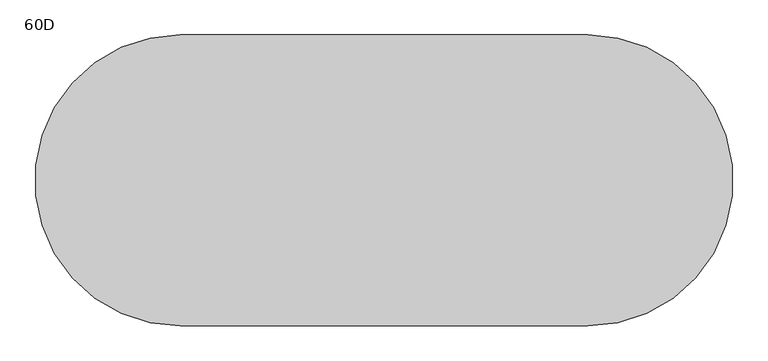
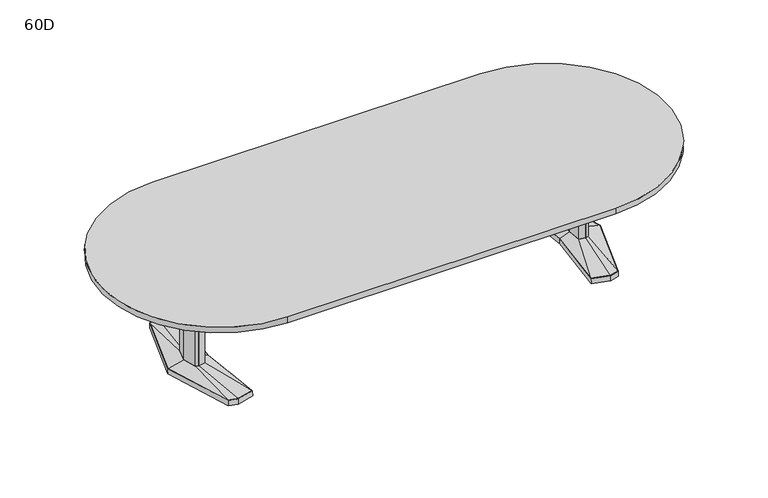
"""IFC4 building model written with IfcOpenShell, lengths in millimetres: furniture geometry, Coalesse_AM_Table_Conference_ETable2_Racetrack_12ft_AluminiumBase : 60D."""

from ifc_helpers import new_model, si_unit, point, frame, frame_2d, origin, place, context, project, spatial, polyline, circle_curve, trimmed, segment, composite_curve, outline, extrude, faceted_brep, source, transform, mapped, element, save
from ifc_brep_helpers import plane_surface, spline_surface, advanced_brep


def furniture_60d_2a99bef6(model_context):
    return source(origin(), model_context, "Body", "SolidModel", [
        faceted_brep([(1210.6306835, 455.5848221, 38.1), (1101.0531277, 426.2263816, 38.1), (1142.2163717, 0.0, 38.1), (1101.0531277, -426.2263816, 38.1), (1210.6306835, -455.5848221, 38.1), (1266.7570396, -440.5478297, 38.1), (1404.0684269, 0.0, 38.1), (1266.7570396, 440.5478297, 38.1), (1210.6306754, 457.2283104, 3.175), (1268.0124472, 441.8549756, 3.175), (1405.73125, 0.0, 3.175), (1268.0124472, -441.8549756, 3.175), (1210.6306754, -457.2283104, 3.175), (1099.34375, -427.4118891, 3.175), (1140.6214856, 0.0, 3.175), (1099.34375, 427.4118891, 3.175), (1214.220115, 428.3273875, 3.175), (1109.1718228, 402.1057253, 3.175), (1117.290518, 377.985069, 3.175), (1217.8095466, 401.0699529, 3.175), (1268.3691725, 387.524361, 3.175), (1267.5631061, 414.0360954, 3.175), (1214.220115, -428.3273875, 3.175), (1267.5631061, -414.0360954, 3.175), (1268.3691725, -387.524361, 3.175), (1217.8095466, -401.0699529, 3.175), (1117.290518, -377.985069, 3.175), (1109.1718228, -402.1057253, 3.175), (1340.8153621, 0.0, 3.175), (1308.5459611, 120.4193755, 3.175), (1259.8987222, 133.471665, 3.175), (1180.0180526, 119.4176561, 3.175), (1168.8868466, 0.0, 3.175), (1180.0180526, -119.4176561, 3.175), (1259.8987222, -133.471665, 3.175), (1308.5459611, -120.4193755, 3.175), (1214.220115, 428.3273875, 0.0), (1267.5631061, 414.0360954, 0.0), (1268.3691725, 387.524361, 0.0), (1217.8095466, 401.0699529, 0.0), (1117.290518, 377.985069, 0.0), (1109.1718228, 402.1057253, 0.0), (1214.220115, -428.3273875, 0.0), (1109.1718228, -402.1057253, 0.0), (1117.290518, -377.985069, 0.0), (1217.8095466, -401.0699529, 0.0), (1268.3691725, -387.524361, 0.0), (1267.5631061, -414.0360954, 0.0), (1340.8153621, 0.0, 0.0), (1308.5459611, -120.4193755, 0.0), (1259.8987222, -133.471665, 0.0), (1180.0180526, -119.4176561, 0.0), (1168.8868466, 0.0, 0.0), (1180.0180526, 119.4176561, 0.0), (1259.8987222, 133.471665, 0.0), (1308.5459611, 120.4193755, 0.0)], [[[0, 1, 2, 3, 4, 5, 6, 7]], [[8, 9, 10, 11, 12, 13, 14, 15], [16, 17, 18, 19, 20, 21], [22, 23, 24, 25, 26, 27], [28, 29, 30, 31, 32, 33, 34, 35]], [[7, 9, 8, 0]], [[6, 10, 9, 7]], [[5, 11, 10, 6]], [[4, 12, 11, 5]], [[3, 13, 12, 4]], [[2, 14, 13, 3]], [[1, 15, 14, 2]], [[0, 8, 15, 1]], [[36, 37, 38, 39, 40, 41]], [[42, 43, 44, 45, 46, 47]], [[48, 49, 50, 51, 52, 53, 54, 55]], [[36, 16, 21, 37]], [[37, 21, 20, 38]], [[38, 20, 19, 39]], [[39, 19, 18, 40]], [[40, 18, 17, 41]], [[41, 17, 16, 36]], [[42, 22, 27, 43]], [[43, 27, 26, 44]], [[44, 26, 25, 45]], [[45, 25, 24, 46]], [[46, 24, 23, 47]], [[47, 23, 22, 42]], [[48, 28, 35, 49]], [[49, 35, 34, 50]], [[50, 34, 33, 51]], [[51, 33, 32, 52]], [[52, 32, 31, 53]], [[53, 31, 30, 54]], [[54, 30, 29, 55]], [[55, 29, 28, 48]]]),
        faceted_brep([(1301.3710836, 0.0, 698.5), (1277.4358546, 89.3188359, 698.5), (1260.5824984, 93.8406728, 698.5), (1258.1826511, 94.4845635, 698.5), (1215.255146, 86.9320037, 698.5), (1207.1520056, 0.0, 698.5), (1215.255146, -86.9320037, 698.5), (1258.1826511, -94.4845635, 698.5), (1260.5824984, -93.8406728, 698.5), (1277.4358546, -89.3188359, 698.5), (1301.3710836, 0.0, 63.5), (1277.4358546, -89.3188359, 63.5), (1260.5824984, -93.8406728, 63.5), (1258.1826511, -94.4845635, 63.5), (1215.255146, -86.9320037, 63.5), (1207.1520056, 0.0, 63.5), (1215.255146, 86.9320037, 63.5), (1258.1826511, 94.4845635, 63.5), (1260.5824984, 93.8406728, 63.5), (1277.4358546, 89.3188359, 63.5)], [[[0, 1, 2, 3, 4, 5, 6, 7, 8, 9]], [[10, 11, 12, 13, 14, 15, 16, 17, 18, 19]], [[9, 11, 10, 0]], [[8, 12, 11, 9]], [[7, 13, 12, 8]], [[6, 14, 13, 7]], [[5, 15, 14, 6]], [[4, 16, 15, 5]], [[3, 17, 16, 4]], [[2, 18, 17, 3]], [[1, 19, 18, 2]], [[0, 10, 19, 1]]]),
        advanced_brep(
        [(1258.1826511, 94.4845635, 63.5), (1215.255146, 86.9320037, 63.5), (1207.1520056, 0.0, 63.5), (1215.255146, -86.9320037, 63.5), (1258.1826511, -94.4845635, 63.5), (1277.4358546, -89.3188359, 63.5), (1301.3710836, 0.0, 63.5), (1277.4358546, 89.3188359, 63.5), (1210.6306835, 455.5848221, 38.1), (1266.7570396, 440.5478297, 38.1), (1404.0684269, 0.0, 38.1), (1266.7570396, -440.5478297, 38.1), (1210.6306835, -455.5848221, 38.1), (1101.0531277, -426.2263816, 38.1), (1142.2163717, 0.0, 38.1), (1101.0531277, 426.2263816, 38.1)],
        [
            (0, 1),
            (1, 2),
            (2, 3),
            (3, 4),
            (4, 5),
            (5, 6),
            (6, 7),
            (7, 0),
            (8, 9),
            (9, 10),
            (10, 11),
            (11, 12),
            (12, 13),
            (13, 14),
            (14, 15),
            (15, 8),
            (8, 0),
            (7, 9),
            (6, 10),
            (5, 11),
            (4, 12),
            (3, 13),
            (2, 14),
            (1, 15),
        ],
        [
            plane_surface(frame((1251.2837991, 0.0, 63.5), z_axis=(0.0, 0.0, 1.0), x_axis=(-0.25884244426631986, -0.9659195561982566, 0.0))),
            plane_surface(frame((1212.8958125, 0.0, 38.1), z_axis=(0.0, 0.0, -1.0), x_axis=(-0.25884244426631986, -0.9659195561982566, 0.0))),
            spline_surface(1, 1, [[(1210.6306835, 455.5848221, 38.1), (1266.7570396, 440.5478297, 38.1)], [(1258.1826511, 94.4845635, 63.5), (1277.4358546, 89.3188359, 63.5)]], [2, 2], [2, 2], [0.0, 1.0], [0.0, 1.0]),
            spline_surface(1, 1, [[(1266.7570396, 440.5478297, 38.1), (1404.0684269, 0.0, 38.1)], [(1277.4358546, 89.3188359, 63.5), (1301.3710836, 0.0, 63.5)]], [2, 2], [2, 2], [0.0, 1.0], [0.0, 1.0]),
            spline_surface(1, 1, [[(1404.0684269, 0.0, 38.1), (1266.7570396, -440.5478297, 38.1)], [(1301.3710836, 0.0, 63.5), (1277.4358546, -89.3188359, 63.5)]], [2, 2], [2, 2], [0.0, 1.0], [0.0, 1.0]),
            spline_surface(1, 1, [[(1266.7570396, -440.5478297, 38.1), (1210.6306835, -455.5848221, 38.1)], [(1277.4358546, -89.3188359, 63.5), (1258.1826511, -94.4845635, 63.5)]], [2, 2], [2, 2], [0.0, 1.0], [0.0, 1.0]),
            spline_surface(1, 1, [[(1210.6306835, -455.5848221, 38.1), (1101.0531277, -426.2263816, 38.1)], [(1258.1826511, -94.4845635, 63.5), (1215.255146, -86.9320037, 63.5)]], [2, 2], [2, 2], [0.0, 1.0], [0.0, 1.0]),
            spline_surface(1, 1, [[(1101.0531277, -426.2263816, 38.1), (1142.2163717, 0.0, 38.1)], [(1215.255146, -86.9320037, 63.5), (1207.1520056, 0.0, 63.5)]], [2, 2], [2, 2], [0.0, 1.0], [0.0, 1.0]),
            spline_surface(1, 1, [[(1142.2163717, 0.0, 38.1), (1101.0531277, 426.2263816, 38.1)], [(1207.1520056, 0.0, 63.5), (1215.255146, 86.9320037, 63.5)]], [2, 2], [2, 2], [0.0, 1.0], [0.0, 1.0]),
            spline_surface(1, 1, [[(1101.0531277, 426.2263816, 38.1), (1210.6306835, 455.5848221, 38.1)], [(1215.255146, 86.9320037, 63.5), (1258.1826511, 94.4845635, 63.5)]], [2, 2], [2, 2], [0.0, 1.0], [0.0, 1.0]),
        ],
        [
            (0, [[1, 2, 3, 4, 5, 6, 7, 8]]),
            (1, [[9, 10, 11, 12, 13, 14, 15, 16]]),
            (2, [[17, -8, 18, -9]]),
            (3, [[-18, -7, 19, -10]]),
            (4, [[-19, -6, 20, -11]]),
            (5, [[-20, -5, 21, -12]]),
            (6, [[-21, -4, 22, -13]]),
            (7, [[-22, -3, 23, -14]]),
            (8, [[-23, -2, 24, -15]]),
            (9, [[-24, -1, -17, -16]]),
        ],
    ),
        faceted_brep([(-1210.6306835, 455.5848221, 38.1), (-1266.7570396, 440.5478297, 38.1), (-1404.0684269, 0.0, 38.1), (-1266.7570396, -440.5478297, 38.1), (-1210.6306835, -455.5848221, 38.1), (-1101.0531277, -426.2263816, 38.1), (-1142.2163717, 0.0, 38.1), (-1101.0531277, 426.2263816, 38.1), (-1210.6306754, 457.2283104, 3.175), (-1099.34375, 427.4118891, 3.175), (-1140.6214856, 0.0, 3.175), (-1099.34375, -427.4118891, 3.175), (-1210.6306754, -457.2283104, 3.175), (-1268.0124472, -441.8549756, 3.175), (-1405.73125, 0.0, 3.175), (-1268.0124472, 441.8549756, 3.175), (-1214.220115, 428.3273875, 3.175), (-1267.5631061, 414.0360954, 3.175), (-1268.3691725, 387.524361, 3.175), (-1217.8095466, 401.0699529, 3.175), (-1117.290518, 377.985069, 3.175), (-1109.1718228, 402.1057253, 3.175), (-1214.220115, -428.3273875, 3.175), (-1109.1718228, -402.1057253, 3.175), (-1117.290518, -377.985069, 3.175), (-1217.8095466, -401.0699529, 3.175), (-1268.3691725, -387.524361, 3.175), (-1267.5631061, -414.0360954, 3.175), (-1340.8153621, 0.0, 3.175), (-1308.5459611, -120.4193755, 3.175), (-1259.8987222, -133.471665, 3.175), (-1180.0180526, -119.4176561, 3.175), (-1168.8868466, 0.0, 3.175), (-1180.0180526, 119.4176561, 3.175), (-1259.8987222, 133.471665, 3.175), (-1308.5459611, 120.4193755, 3.175), (-1214.220115, 428.3273875, 0.0), (-1109.1718228, 402.1057253, 0.0), (-1117.290518, 377.985069, 0.0), (-1217.8095466, 401.0699529, 0.0), (-1268.3691725, 387.524361, 0.0), (-1267.5631061, 414.0360954, 0.0), (-1214.220115, -428.3273875, 0.0), (-1267.5631061, -414.0360954, 0.0), (-1268.3691725, -387.524361, 0.0), (-1217.8095466, -401.0699529, 0.0), (-1117.290518, -377.985069, 0.0), (-1109.1718228, -402.1057253, 0.0), (-1340.8153621, 0.0, 0.0), (-1308.5459611, 120.4193755, 0.0), (-1259.8987222, 133.471665, 0.0), (-1180.0180526, 119.4176561, 0.0), (-1168.8868466, 0.0, 0.0), (-1180.0180526, -119.4176561, 0.0), (-1259.8987222, -133.471665, 0.0), (-1308.5459611, -120.4193755, 0.0)], [[[0, 1, 2, 3, 4, 5, 6, 7]], [[8, 9, 10, 11, 12, 13, 14, 15], [16, 17, 18, 19, 20, 21], [22, 23, 24, 25, 26, 27], [28, 29, 30, 31, 32, 33, 34, 35]], [[1, 0, 8, 15]], [[2, 1, 15, 14]], [[3, 2, 14, 13]], [[4, 3, 13, 12]], [[5, 4, 12, 11]], [[6, 5, 11, 10]], [[7, 6, 10, 9]], [[0, 7, 9, 8]], [[36, 37, 38, 39, 40, 41]], [[42, 43, 44, 45, 46, 47]], [[48, 49, 50, 51, 52, 53, 54, 55]], [[36, 41, 17, 16]], [[41, 40, 18, 17]], [[40, 39, 19, 18]], [[39, 38, 20, 19]], [[38, 37, 21, 20]], [[37, 36, 16, 21]], [[42, 47, 23, 22]], [[47, 46, 24, 23]], [[46, 45, 25, 24]], [[45, 44, 26, 25]], [[44, 43, 27, 26]], [[43, 42, 22, 27]], [[48, 55, 29, 28]], [[55, 54, 30, 29]], [[54, 53, 31, 30]], [[53, 52, 32, 31]], [[52, 51, 33, 32]], [[51, 50, 34, 33]], [[50, 49, 35, 34]], [[49, 48, 28, 35]]]),
        faceted_brep([(-1301.3710836, 0.0, 698.5), (-1277.4358546, -89.3188359, 698.5), (-1260.5824984, -93.8406728, 698.5), (-1258.1826511, -94.4845635, 698.5), (-1215.255146, -86.9320037, 698.5), (-1207.1520056, 0.0, 698.5), (-1215.255146, 86.9320037, 698.5), (-1258.1826511, 94.4845635, 698.5), (-1260.5824984, 93.8406728, 698.5), (-1277.4358546, 89.3188359, 698.5), (-1301.3710836, 0.0, 63.5), (-1277.4358546, 89.3188359, 63.5), (-1260.5824984, 93.8406728, 63.5), (-1258.1826511, 94.4845635, 63.5), (-1215.255146, 86.9320037, 63.5), (-1207.1520056, 0.0, 63.5), (-1215.255146, -86.9320037, 63.5), (-1258.1826511, -94.4845635, 63.5), (-1260.5824984, -93.8406728, 63.5), (-1277.4358546, -89.3188359, 63.5)], [[[0, 1, 2, 3, 4, 5, 6, 7, 8, 9]], [[10, 11, 12, 13, 14, 15, 16, 17, 18, 19]], [[1, 0, 10, 19]], [[2, 1, 19, 18]], [[3, 2, 18, 17]], [[4, 3, 17, 16]], [[5, 4, 16, 15]], [[6, 5, 15, 14]], [[7, 6, 14, 13]], [[8, 7, 13, 12]], [[9, 8, 12, 11]], [[0, 9, 11, 10]]]),
        advanced_brep(
        [(-1258.1826511, 94.4845635, 63.5), (-1277.4358546, 89.3188359, 63.5), (-1301.3710836, 0.0, 63.5), (-1277.4358546, -89.3188359, 63.5), (-1258.1826511, -94.4845635, 63.5), (-1215.255146, -86.9320037, 63.5), (-1207.1520056, 0.0, 63.5), (-1215.255146, 86.9320037, 63.5), (-1210.6306835, 455.5848221, 38.1), (-1101.0531277, 426.2263816, 38.1), (-1142.2163717, 0.0, 38.1), (-1101.0531277, -426.2263816, 38.1), (-1210.6306835, -455.5848221, 38.1), (-1266.7570396, -440.5478297, 38.1), (-1404.0684269, 0.0, 38.1), (-1266.7570396, 440.5478297, 38.1)],
        [
            (0, 1),
            (1, 2),
            (2, 3),
            (3, 4),
            (4, 5),
            (5, 6),
            (6, 7),
            (7, 0),
            (8, 9),
            (9, 10),
            (10, 11),
            (11, 12),
            (12, 13),
            (13, 14),
            (14, 15),
            (15, 8),
            (15, 1),
            (0, 8),
            (14, 2),
            (13, 3),
            (12, 4),
            (11, 5),
            (10, 6),
            (9, 7),
        ],
        [
            plane_surface(frame((-1251.2837991, 0.0, 63.5), z_axis=(0.0, 0.0, 1.0), x_axis=(0.25884244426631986, -0.9659195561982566, 0.0))),
            plane_surface(frame((-1212.8958125, 0.0, 38.1), z_axis=(0.0, 0.0, -1.0), x_axis=(0.25884244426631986, -0.9659195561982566, 0.0))),
            spline_surface(1, 1, [[(-1210.6306835, 455.5848221, 38.1), (-1258.1826511, 94.4845635, 63.5)], [(-1266.7570396, 440.5478297, 38.1), (-1277.4358546, 89.3188359, 63.5)]], [2, 2], [2, 2], [0.0, 1.0], [0.0, 1.0]),
            spline_surface(1, 1, [[(-1266.7570396, 440.5478297, 38.1), (-1277.4358546, 89.3188359, 63.5)], [(-1404.0684269, 0.0, 38.1), (-1301.3710836, 0.0, 63.5)]], [2, 2], [2, 2], [0.0, 1.0], [0.0, 1.0]),
            spline_surface(1, 1, [[(-1404.0684269, 0.0, 38.1), (-1301.3710836, 0.0, 63.5)], [(-1266.7570396, -440.5478297, 38.1), (-1277.4358546, -89.3188359, 63.5)]], [2, 2], [2, 2], [0.0, 1.0], [0.0, 1.0]),
            spline_surface(1, 1, [[(-1266.7570396, -440.5478297, 38.1), (-1277.4358546, -89.3188359, 63.5)], [(-1210.6306835, -455.5848221, 38.1), (-1258.1826511, -94.4845635, 63.5)]], [2, 2], [2, 2], [0.0, 1.0], [0.0, 1.0]),
            spline_surface(1, 1, [[(-1210.6306835, -455.5848221, 38.1), (-1258.1826511, -94.4845635, 63.5)], [(-1101.0531277, -426.2263816, 38.1), (-1215.255146, -86.9320037, 63.5)]], [2, 2], [2, 2], [0.0, 1.0], [0.0, 1.0]),
            spline_surface(1, 1, [[(-1101.0531277, -426.2263816, 38.1), (-1215.255146, -86.9320037, 63.5)], [(-1142.2163717, 0.0, 38.1), (-1207.1520056, 0.0, 63.5)]], [2, 2], [2, 2], [0.0, 1.0], [0.0, 1.0]),
            spline_surface(1, 1, [[(-1142.2163717, 0.0, 38.1), (-1207.1520056, 0.0, 63.5)], [(-1101.0531277, 426.2263816, 38.1), (-1215.255146, 86.9320037, 63.5)]], [2, 2], [2, 2], [0.0, 1.0], [0.0, 1.0]),
            spline_surface(1, 1, [[(-1101.0531277, 426.2263816, 38.1), (-1215.255146, 86.9320037, 63.5)], [(-1210.6306835, 455.5848221, 38.1), (-1258.1826511, 94.4845635, 63.5)]], [2, 2], [2, 2], [0.0, 1.0], [0.0, 1.0]),
        ],
        [
            (0, [[1, 2, 3, 4, 5, 6, 7, 8]]),
            (1, [[9, 10, 11, 12, 13, 14, 15, 16]]),
            (2, [[-16, 17, -1, 18]]),
            (3, [[-15, 19, -2, -17]]),
            (4, [[-14, 20, -3, -19]]),
            (5, [[-13, 21, -4, -20]]),
            (6, [[-12, 22, -5, -21]]),
            (7, [[-11, 23, -6, -22]]),
            (8, [[-10, 24, -7, -23]]),
            (9, [[-9, -18, -8, -24]]),
        ],
    ),
        extrude(outline(polyline([(96.8375, 698.5), (103.1875, 698.5), (103.1875, 476.25), (-103.1875, 476.25), (-103.1875, 698.5), (-96.8375, 698.5), (-96.8375, 482.6), (96.8375, 482.6), (96.8375, 698.5)])), frame((-1207.29375, 0.0, 0.0), z_axis=(1.0, 0.0, 0.0), x_axis=(0.0, 1.0, 0.0)), (0.0, 0.0, 1.0), 2414.5875),
        extrude(outline(composite_curve([segment(trimmed(circle_curve(frame_2d((-1066.8, 0.0)), 762.0), [point((-1066.8, -762.0))], [point((-1066.8, 762.0))], False, "CARTESIAN"), True, "CONTINUOUS"), segment(polyline([(-1066.8, 762.0), (1066.8, 762.0)]), True, "CONTINUOUS"), segment(trimmed(circle_curve(frame_2d((1066.8, 0.0)), 762.0), [point((1066.8, 762.0))], [point((1066.8, -762.0))], False, "CARTESIAN"), True, "CONTINUOUS"), segment(polyline([(1066.8, -762.0), (-1066.8, -762.0)]), True, "CONTINUOUS")], self_intersect=False)), frame((0.0, 0.0, 698.5), z_axis=(0.0, 0.0, 1.0), x_axis=(1.0, 0.0, 0.0)), (0.0, 0.0, 1.0), 38.1),
    ])


if __name__ == "__main__":
    model = new_model("IFC4")
    model_context = context("Model", 3, world=origin())
    ifc_project = project(units=[si_unit("LENGTHUNIT", "METRE", prefix="MILLI")], contexts=[model_context])
    site = spatial("IfcSite", under=ifc_project)
    building = spatial("IfcBuilding", under=site)
    placement = place(None, origin())
    furniture_60d_shape = furniture_60d_2a99bef6(model_context)
    element("IfcFurniture", 1, ObjectType="Coalesse_AM_Table_Conference_ETable2_Racetrack_12ft_AluminiumBase : 60D", at=placement, inside=building, context=model_context, shape_type="MappedRepresentation", body=[
        mapped(furniture_60d_shape, transform((0.0, 0.0, 0.0), x_axis=(1.0, 0.0, 0.0), y_axis=(0.0, 1.0, 0.0), z_axis=(0.0, 0.0, 1.0))),
    ])
    save(model, "model.ifc")
